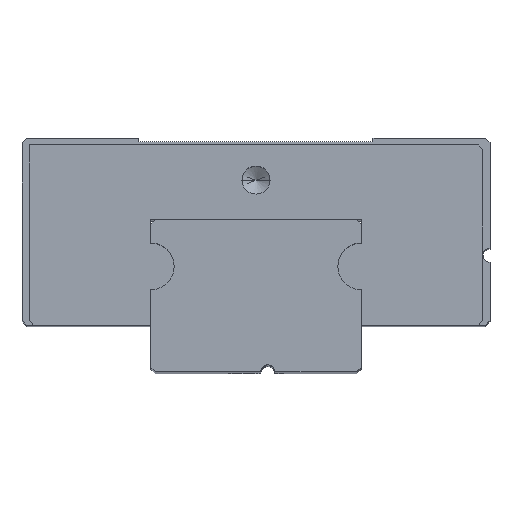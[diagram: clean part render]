
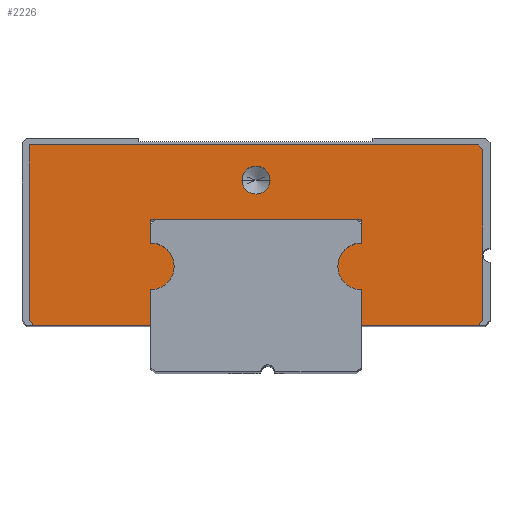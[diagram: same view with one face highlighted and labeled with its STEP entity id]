
A CAD part, top view. The second image highlights one B-rep face of the part: STEP entity #2226.
In plain terms, the highlighted planar face has unit normal (0, 0, 1).
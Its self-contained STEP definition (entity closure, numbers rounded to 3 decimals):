
#1287=CARTESIAN_POINT('',(-4.5,4.5,19.95));
#1288=DIRECTION('',(0.,0.,-1.));
#1289=DIRECTION('',(0.,1.,0.));
#1290=AXIS2_PLACEMENT_3D('',#1287,#1288,#1289);
#1292=DIRECTION('',(1.,0.,0.));
#1293=VECTOR('',#1292,5.);
#1294=CARTESIAN_POINT('',(-9.5,2.,19.95));
#1295=LINE('',#1294,#1293);
#1296=DIRECTION('',(0.707,-0.707,0.));
#1297=VECTOR('',#1296,0.283);
#1298=CARTESIAN_POINT('',(-9.7,2.2,19.95));
#1299=LINE('',#1298,#1297);
#1300=DIRECTION('',(0.,-1.,0.));
#1301=VECTOR('',#1300,7.5);
#1302=CARTESIAN_POINT('',(-9.7,9.7,19.95));
#1303=LINE('',#1302,#1301);
#1304=DIRECTION('',(-1.,0.,0.));
#1305=VECTOR('',#1304,19.2);
#1306=CARTESIAN_POINT('',(9.5,9.7,19.95));
#1307=LINE('',#1306,#1305);
#1308=DIRECTION('',(-0.707,0.707,0.));
#1309=VECTOR('',#1308,0.283);
#1310=CARTESIAN_POINT('',(9.7,9.5,19.95));
#1311=LINE('',#1310,#1309);
#1312=DIRECTION('',(0.707,0.707,0.));
#1313=VECTOR('',#1312,0.283);
#1314=CARTESIAN_POINT('',(9.5,2.,19.95));
#1315=LINE('',#1314,#1313);
#1316=DIRECTION('',(1.,0.,0.));
#1317=VECTOR('',#1316,5.);
#1318=CARTESIAN_POINT('',(4.5,2.,19.95));
#1319=LINE('',#1318,#1317);
#1320=CARTESIAN_POINT('',(4.5,4.5,19.95));
#1321=DIRECTION('',(0.,0.,-1.));
#1322=DIRECTION('',(0.,-1.,0.));
#1323=AXIS2_PLACEMENT_3D('',#1320,#1321,#1322);
#1325=CARTESIAN_POINT('',(0.,8.2,19.95));
#1326=DIRECTION('',(0.,0.,-1.));
#1327=DIRECTION('',(-1.,0.,0.));
#1328=AXIS2_PLACEMENT_3D('',#1325,#1326,#1327);
#1330=CARTESIAN_POINT('',(0.,8.2,19.95));
#1331=DIRECTION('',(0.,0.,-1.));
#1332=DIRECTION('',(1.,0.,0.));
#1333=AXIS2_PLACEMENT_3D('',#1330,#1331,#1332);
#1411=DIRECTION('',(0.,-1.,0.));
#1412=VECTOR('',#1411,1.);
#1413=CARTESIAN_POINT('',(-4.5,6.5,19.95));
#1414=LINE('',#1413,#1412);
#1419=DIRECTION('',(-1.,0.,0.));
#1420=VECTOR('',#1419,9.);
#1421=CARTESIAN_POINT('',(4.5,6.5,19.95));
#1422=LINE('',#1421,#1420);
#1427=DIRECTION('',(0.,1.,0.));
#1428=VECTOR('',#1427,1.);
#1429=CARTESIAN_POINT('',(4.5,5.5,19.95));
#1430=LINE('',#1429,#1428);
#1439=DIRECTION('',(0.,1.,0.));
#1440=VECTOR('',#1439,1.5);
#1441=CARTESIAN_POINT('',(4.5,2.,19.95));
#1442=LINE('',#1441,#1440);
#1488=DIRECTION('',(0.,-1.,0.));
#1489=VECTOR('',#1488,7.3);
#1490=CARTESIAN_POINT('',(9.7,9.5,19.95));
#1491=LINE('',#1490,#1489);
#1626=DIRECTION('',(0.,-1.,0.));
#1627=VECTOR('',#1626,1.5);
#1628=CARTESIAN_POINT('',(-4.5,3.5,19.95));
#1629=LINE('',#1628,#1627);
#1971=CARTESIAN_POINT('',(-9.7,9.7,19.95));
#1972=CARTESIAN_POINT('',(-9.7,2.2,19.95));
#1973=VERTEX_POINT('',#1971);
#1974=VERTEX_POINT('',#1972);
#1975=CARTESIAN_POINT('',(-9.5,2.,19.95));
#1976=VERTEX_POINT('',#1975);
#1977=CARTESIAN_POINT('',(-4.5,2.,19.95));
#1978=VERTEX_POINT('',#1977);
#1979=CARTESIAN_POINT('',(-4.5,3.5,19.95));
#1980=VERTEX_POINT('',#1979);
#1981=CARTESIAN_POINT('',(-4.5,6.5,19.95));
#1982=CARTESIAN_POINT('',(-4.5,5.5,19.95));
#1983=VERTEX_POINT('',#1981);
#1984=VERTEX_POINT('',#1982);
#1985=CARTESIAN_POINT('',(4.5,6.5,19.95));
#1986=VERTEX_POINT('',#1985);
#1987=CARTESIAN_POINT('',(4.5,5.5,19.95));
#1988=VERTEX_POINT('',#1987);
#1989=CARTESIAN_POINT('',(4.5,2.,19.95));
#1990=CARTESIAN_POINT('',(4.5,3.5,19.95));
#1991=VERTEX_POINT('',#1989);
#1992=VERTEX_POINT('',#1990);
#1993=CARTESIAN_POINT('',(9.5,2.,19.95));
#1994=VERTEX_POINT('',#1993);
#1995=CARTESIAN_POINT('',(9.7,2.2,19.95));
#1996=VERTEX_POINT('',#1995);
#1997=CARTESIAN_POINT('',(9.7,9.5,19.95));
#1998=VERTEX_POINT('',#1997);
#1999=CARTESIAN_POINT('',(9.5,9.7,19.95));
#2000=VERTEX_POINT('',#1999);
#2169=CARTESIAN_POINT('',(-0.6,8.2,19.95));
#2170=VERTEX_POINT('',#2169);
#2171=CARTESIAN_POINT('',(0.6,8.2,19.95));
#2172=VERTEX_POINT('',#2171);
#2183=CARTESIAN_POINT('',(10.,5.,19.95));
#2184=DIRECTION('',(0.,0.,1.));
#2185=DIRECTION('',(1.,0.,0.));
#2186=AXIS2_PLACEMENT_3D('',#2183,#2184,#2185);
#2187=PLANE('',#2186);
#2189=ORIENTED_EDGE('',*,*,#2188,.T.);
#2191=ORIENTED_EDGE('',*,*,#2190,.T.);
#2193=ORIENTED_EDGE('',*,*,#2192,.F.);
#2195=ORIENTED_EDGE('',*,*,#2194,.F.);
#2197=ORIENTED_EDGE('',*,*,#2196,.F.);
#2199=ORIENTED_EDGE('',*,*,#2198,.F.);
#2201=ORIENTED_EDGE('',*,*,#2200,.F.);
#2203=ORIENTED_EDGE('',*,*,#2202,.T.);
#2205=ORIENTED_EDGE('',*,*,#2204,.F.);
#2207=ORIENTED_EDGE('',*,*,#2206,.F.);
#2209=ORIENTED_EDGE('',*,*,#2208,.T.);
#2211=ORIENTED_EDGE('',*,*,#2210,.T.);
#2213=ORIENTED_EDGE('',*,*,#2212,.T.);
#2215=ORIENTED_EDGE('',*,*,#2214,.T.);
#2217=ORIENTED_EDGE('',*,*,#2216,.T.);
#2218=EDGE_LOOP('',(#2189,#2191,#2193,#2195,#2197,#2199,#2201,#2203,#2205,#2207,
#2209,#2211,#2213,#2215,#2217));
#2219=FACE_OUTER_BOUND('',#2218,.F.);
#2221=ORIENTED_EDGE('',*,*,#2220,.F.);
#2223=ORIENTED_EDGE('',*,*,#2222,.F.);
#2224=EDGE_LOOP('',(#2221,#2223));
#2225=FACE_BOUND('',#2224,.F.);
#2226=ADVANCED_FACE('',(#2219,#2225),#2187,.T.);
#1291=CIRCLE('',#1290,1.);
#1324=CIRCLE('',#1323,1.);
#1329=CIRCLE('',#1328,0.6);
#1334=CIRCLE('',#1333,0.6);
#2188=EDGE_CURVE('',#1984,#1980,#1291,.T.);
#2190=EDGE_CURVE('',#1980,#1978,#1629,.T.);
#2192=EDGE_CURVE('',#1976,#1978,#1295,.T.);
#2194=EDGE_CURVE('',#1974,#1976,#1299,.T.);
#2196=EDGE_CURVE('',#1973,#1974,#1303,.T.);
#2198=EDGE_CURVE('',#2000,#1973,#1307,.T.);
#2200=EDGE_CURVE('',#1998,#2000,#1311,.T.);
#2202=EDGE_CURVE('',#1998,#1996,#1491,.T.);
#2204=EDGE_CURVE('',#1994,#1996,#1315,.T.);
#2206=EDGE_CURVE('',#1991,#1994,#1319,.T.);
#2208=EDGE_CURVE('',#1991,#1992,#1442,.T.);
#2210=EDGE_CURVE('',#1992,#1988,#1324,.T.);
#2212=EDGE_CURVE('',#1988,#1986,#1430,.T.);
#2214=EDGE_CURVE('',#1986,#1983,#1422,.T.);
#2216=EDGE_CURVE('',#1983,#1984,#1414,.T.);
#2220=EDGE_CURVE('',#2170,#2172,#1329,.T.);
#2222=EDGE_CURVE('',#2172,#2170,#1334,.T.);
